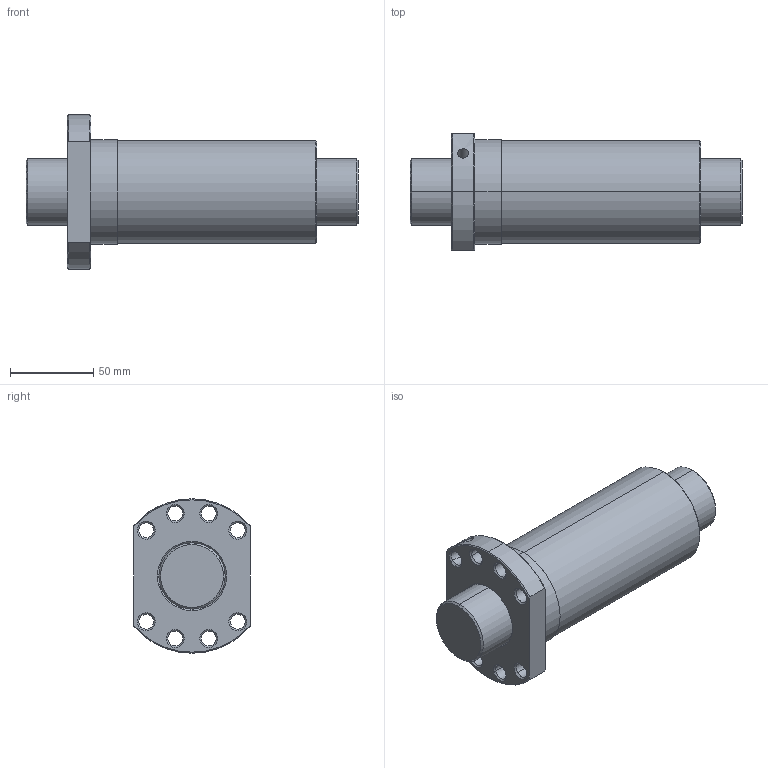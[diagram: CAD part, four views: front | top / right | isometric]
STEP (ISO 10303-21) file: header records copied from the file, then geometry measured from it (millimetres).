
FILE_DESCRIPTION(('no description'),'unknown implementation level');
FILE_NAME('R40_20T2_DDB_200_200_0_023_61.stp',' ',('HIWIN GmbH'),('CADClick - KiM GmbH - www.kimweb.de'),'unknown preprocess','ACIS','unknown authorization');
FILE_SCHEMA(('CONFIG_CONTROL_DESIGN'));
Length unit declared in the file: millimetre
Products named in the file (2): 1; 2
Bounding box: 200 x 70 x 93 mm (x, y, z)
Volume: 548437.6 mm3; surface area: 87886.4 mm2
Topology: 2 solids, 2 shells, 90 faces, 204 edges, 119 vertices
Faces by surface type: cone 52, cylinder 30, plane 8
Entity records: 2677 total; most frequent: CARTESIAN_POINT 496, DIRECTION 484, ORIENTED_EDGE 404, EDGE_CURVE 202, AXIS2_PLACEMENT_3D 200, VERTEX_POINT 119, EDGE_LOOP 111, CIRCLE 108
